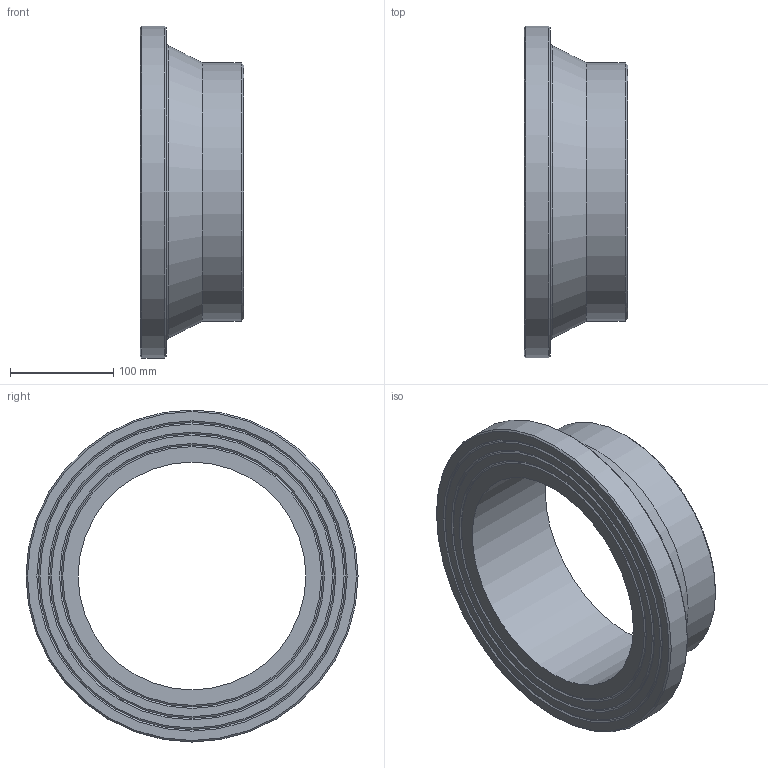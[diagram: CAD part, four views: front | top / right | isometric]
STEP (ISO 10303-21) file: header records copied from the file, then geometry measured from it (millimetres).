
FILE_DESCRIPTION(/* description */ ('Unknown'),/* implementation_level */ '2;1');
FILE_NAME(/* name */ 'CCP250B',/* time_stamp */ '2022-04-04T16:50:55+02:00',/* author */ ('Unknown'),/* organization */ ('Unknown'),/* preprocessor_version */ 'ST-DEVELOPER v18.1',/* originating_system */ 'Solid Edge',/* authorisation */ 'Unknown');
FILE_SCHEMA (('AUTOMOTIVE_DESIGN {1 0 10303 214 3 1 1}'));
Length unit declared in the file: millimetre
Products named in the file (1): CCP250B
Bounding box: 100 x 321 x 321 mm (x, y, z)
Volume: 2133298.2 mm3; surface area: 228070.6 mm2
Topology: 1 solids, 1 shells, 20 faces, 35 edges, 21 vertices
Faces by surface type: cone 10, plane 6, cylinder 3, torus 1
Full cylindrical faces by diameter (mm): 220.4 x1, 250 x1, 321 x1
Entity records: 438 total; most frequent: DIRECTION 82, CARTESIAN_POINT 61, AXIS2_PLACEMENT_3D 41, ORIENTED_EDGE 40, EDGE_LOOP 40, FACE_BOUND 40, EDGE_CURVE 20, VERTEX_POINT 20
